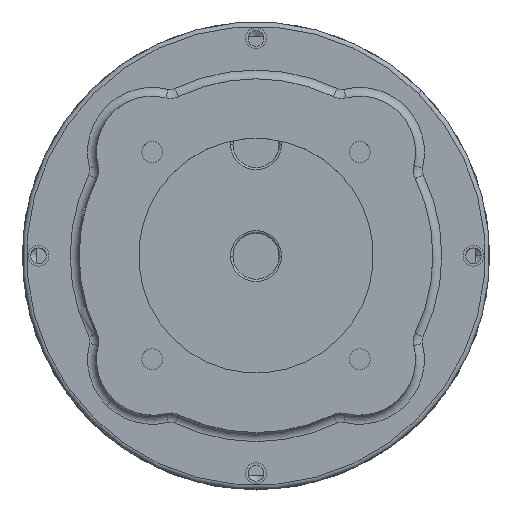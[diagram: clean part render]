
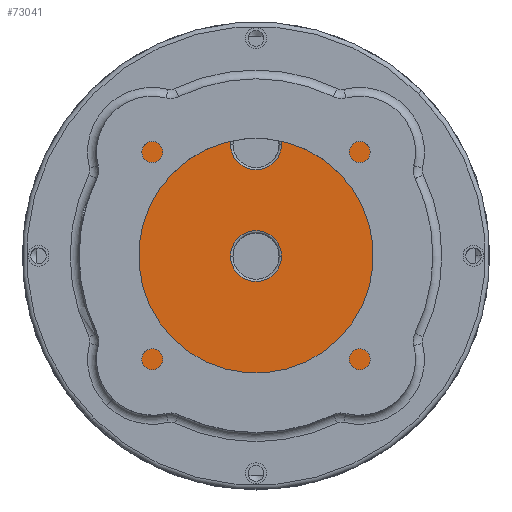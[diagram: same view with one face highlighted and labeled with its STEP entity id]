
A CAD part, top view. The second image highlights one B-rep face of the part: STEP entity #73041.
In plain terms, the highlighted planar face has unit normal (0, 0, 1).
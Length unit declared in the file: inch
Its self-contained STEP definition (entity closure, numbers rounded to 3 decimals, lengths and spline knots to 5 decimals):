
#439 = AXIS2_PLACEMENT_3D ( 'NONE', #9840, #15313, #40270 ) ;
#529 = CARTESIAN_POINT ( 'NONE',  ( -6.3214, -1.79567, 2.82519 ) ) ;
#786 = AXIS2_PLACEMENT_3D ( 'NONE', #13573, #48641, #31484 ) ;
#1403 = EDGE_CURVE ( 'NONE', #75333, #34463, #61234, .T. ) ;
#3035 = CARTESIAN_POINT ( 'NONE',  ( -6.14318, -3.90315, 2.82519 ) ) ;
#3423 = CARTESIAN_POINT ( 'NONE',  ( -6.49961, -3.90315, 2.82519 ) ) ;
#3434 = EDGE_CURVE ( 'NONE', #21080, #21101, #26591, .T. ) ;
#4498 = DIRECTION ( 'NONE',  ( 1., 0., 0. ) ) ;
#7657 = EDGE_CURVE ( 'NONE', #68729, #71693, #42536, .T. ) ;
#7698 = FACE_BOUND ( 'NONE', #48625, .T. ) ;
#8166 = ORIENTED_EDGE ( 'NONE', *, *, #1403, .T. ) ;
#8362 = CIRCLE ( 'NONE', #19607, 2.115 ) ;
#9840 = CARTESIAN_POINT ( 'NONE',  ( -6.3214, -1.79567, 2.82519 ) ) ;
#11405 = ORIENTED_EDGE ( 'NONE', *, *, #52653, .T. ) ;
#11440 = AXIS2_PLACEMENT_3D ( 'NONE', #42117, #65890, #60042 ) ;
#13573 = CARTESIAN_POINT ( 'NONE',  ( -6.3214, -1.79567, 2.82519 ) ) ;
#15307 = AXIS2_PLACEMENT_3D ( 'NONE', #63242, #57366, #18625 ) ;
#15313 = DIRECTION ( 'NONE',  ( 0., 0., 1. ) ) ;
#17668 = DIRECTION ( 'NONE',  ( 1., 0., 0. ) ) ;
#18029 = DIRECTION ( 'NONE',  ( 0., 0., -1. ) ) ;
#18099 = ORIENTED_EDGE ( 'NONE', *, *, #74599, .T. ) ;
#18625 = DIRECTION ( 'NONE',  ( 1., 0., 0. ) ) ;
#19607 = AXIS2_PLACEMENT_3D ( 'NONE', #529, #30160, #42285 ) ;
#21049 = CARTESIAN_POINT ( 'NONE',  ( -8.4364, -1.79567, 2.82519 ) ) ;
#21080 = VERTEX_POINT ( 'NONE', #3035 ) ;
#21101 = VERTEX_POINT ( 'NONE', #3423 ) ;
#24092 = CIRCLE ( 'NONE', #439, 2.115 ) ;
#24671 = CARTESIAN_POINT ( 'NONE',  ( -6.3214, -0.29567, 2.82519 ) ) ;
#24831 = CARTESIAN_POINT ( 'NONE',  ( -6.3214, -1.79567, 2.82519 ) ) ;
#25615 = EDGE_CURVE ( 'NONE', #34463, #75333, #44424, .T. ) ;
#25764 = AXIS2_PLACEMENT_3D ( 'NONE', #66369, #18029, #29336 ) ;
#26591 = CIRCLE ( 'NONE', #46534, 0.17865 ) ;
#27186 = CARTESIAN_POINT ( 'NONE',  ( -5.98015, -1.79567, 2.82519 ) ) ;
#27857 = ORIENTED_EDGE ( 'NONE', *, *, #7657, .T. ) ;
#29336 = DIRECTION ( 'NONE',  ( 1., 0., 0. ) ) ;
#30096 = AXIS2_PLACEMENT_3D ( 'NONE', #24671, #53916, #17668 ) ;
#30160 = DIRECTION ( 'NONE',  ( 0., 0., 1. ) ) ;
#31484 = DIRECTION ( 'NONE',  ( 1., 0., 0. ) ) ;
#34463 = VERTEX_POINT ( 'NONE', #41432 ) ;
#35419 = DIRECTION ( 'NONE',  ( 0., 0., 1. ) ) ;
#35837 = FACE_BOUND ( 'NONE', #68744, .T. ) ;
#36258 = EDGE_LOOP ( 'NONE', ( #67973, #38835, #18099, #11405 ) ) ;
#38006 = ORIENTED_EDGE ( 'NONE', *, *, #42674, .T. ) ;
#38835 = ORIENTED_EDGE ( 'NONE', *, *, #63933, .T. ) ;
#39228 = ORIENTED_EDGE ( 'NONE', *, *, #25615, .T. ) ;
#40270 = DIRECTION ( 'NONE',  ( 1., 0., 0. ) ) ;
#41432 = CARTESIAN_POINT ( 'NONE',  ( -6.66265, -1.79567, 2.82519 ) ) ;
#41650 = DIRECTION ( 'NONE',  ( 1., 0., 0. ) ) ;
#42117 = CARTESIAN_POINT ( 'NONE',  ( -6.3214, -1.79567, 2.82519 ) ) ;
#42285 = DIRECTION ( 'NONE',  ( 1., 0., 0. ) ) ;
#42437 = VERTEX_POINT ( 'NONE', #68682 ) ;
#42536 = CIRCLE ( 'NONE', #30096, 0.34125 ) ;
#42643 = CIRCLE ( 'NONE', #65016, 2.115 ) ;
#42674 = EDGE_CURVE ( 'NONE', #71693, #68729, #75058, .T. ) ;
#42834 = PLANE ( 'NONE',  #786 ) ;
#44424 = CIRCLE ( 'NONE', #25764, 0.34125 ) ;
#46534 = AXIS2_PLACEMENT_3D ( 'NONE', #58691, #57922, #4498 ) ;
#48625 = EDGE_LOOP ( 'NONE', ( #27857, #38006 ) ) ;
#48641 = DIRECTION ( 'NONE',  ( 0., 0., 1. ) ) ;
#52653 = EDGE_CURVE ( 'NONE', #64215, #21101, #42643, .T. ) ;
#53916 = DIRECTION ( 'NONE',  ( 0., 0., -1. ) ) ;
#57366 = DIRECTION ( 'NONE',  ( 0., 0., -1. ) ) ;
#57922 = DIRECTION ( 'NONE',  ( 0., 0., 1. ) ) ;
#58691 = CARTESIAN_POINT ( 'NONE',  ( -6.3214, -3.91567, 2.82519 ) ) ;
#60042 = DIRECTION ( 'NONE',  ( 1., 0., 0. ) ) ;
#61131 = FACE_OUTER_BOUND ( 'NONE', #36258, .T. ) ;
#61234 = CIRCLE ( 'NONE', #11440, 0.34125 ) ;
#62910 = CARTESIAN_POINT ( 'NONE',  ( -5.98015, -0.29567, 2.82519 ) ) ;
#63242 = CARTESIAN_POINT ( 'NONE',  ( -6.3214, -0.29567, 2.82519 ) ) ;
#63933 = EDGE_CURVE ( 'NONE', #21080, #42437, #24092, .T. ) ;
#64215 = VERTEX_POINT ( 'NONE', #21049 ) ;
#65016 = AXIS2_PLACEMENT_3D ( 'NONE', #24831, #35419, #41650 ) ;
#65890 = DIRECTION ( 'NONE',  ( 0., 0., -1. ) ) ;
#66369 = CARTESIAN_POINT ( 'NONE',  ( -6.3214, -1.79567, 2.82519 ) ) ;
#67158 = CARTESIAN_POINT ( 'NONE',  ( -6.66265, -0.29567, 2.82519 ) ) ;
#67973 = ORIENTED_EDGE ( 'NONE', *, *, #3434, .F. ) ;
#68682 = CARTESIAN_POINT ( 'NONE',  ( -4.2064, -1.79567, 2.82519 ) ) ;
#68729 = VERTEX_POINT ( 'NONE', #62910 ) ;
#68744 = EDGE_LOOP ( 'NONE', ( #8166, #39228 ) ) ;
#71693 = VERTEX_POINT ( 'NONE', #67158 ) ;
#73041 = ADVANCED_FACE ( 'NONE', ( #61131, #7698, #35837 ), #42834, .T. ) ;
#74599 = EDGE_CURVE ( 'NONE', #42437, #64215, #8362, .T. ) ;
#75058 = CIRCLE ( 'NONE', #15307, 0.34125 ) ;
#75333 = VERTEX_POINT ( 'NONE', #27186 ) ;
